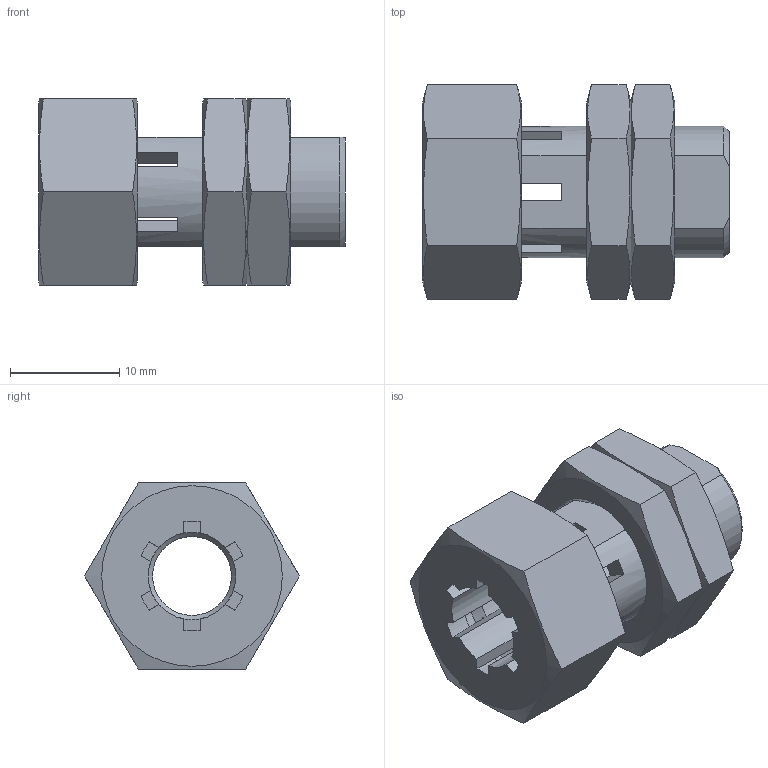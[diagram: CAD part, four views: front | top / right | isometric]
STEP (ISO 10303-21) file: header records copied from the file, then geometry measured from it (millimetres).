
FILE_DESCRIPTION(/* description */ ('STEP AP203'),/* implementation_level */ '2;1');
FILE_NAME(/* name */ 'E12743',/* time_stamp */ '2024-02-28T08:56:25+01:00',/* author */ ('License CC BY-ND 4.0'),/* organization */ ('CADENAS'),/* preprocessor_version */ 'ST-DEVELOPER v19.3',/* originating_system */ 'PARTsolutions',/* authorisation */ ' ');
FILE_SCHEMA (('CONFIG_CONTROL_DESIGN'));
Length unit declared in the file: millimetre
Products named in the file (1): E12743
Bounding box: 28 x 19.63 x 17 mm (x, y, z)
Volume: 3687.1 mm3; surface area: 3365.5 mm2
Topology: 1 solids, 1 shells, 96 faces, 349 edges, 231 vertices
Faces by surface type: plane 50, cone 25, cylinder 21
Full cylindrical faces by diameter (mm): 7.2 x1, 8 x1, 12.6 x1
Entity records: 3798 total; most frequent: CARTESIAN_POINT 983, ORIENTED_EDGE 650, DIRECTION 514, EDGE_CURVE 325, VERTEX_POINT 221, AXIS2_PLACEMENT_3D 192, LINE 130, VECTOR 130
